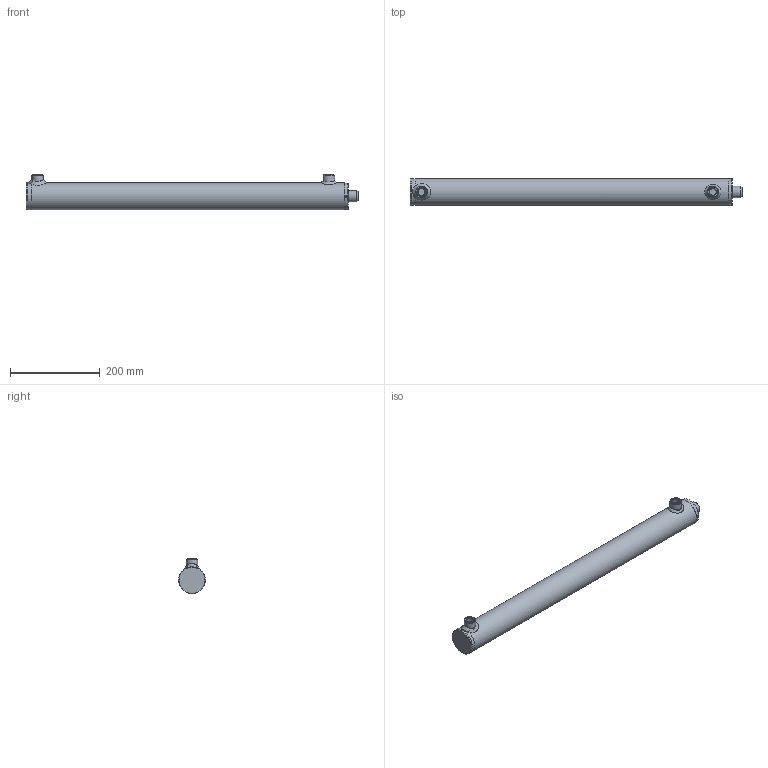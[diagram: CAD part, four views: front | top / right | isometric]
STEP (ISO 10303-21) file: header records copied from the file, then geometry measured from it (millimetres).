
FILE_DESCRIPTION( ( 'Unknown' ), '1' );
FILE_NAME( 'E:/LIBRERIA_3d/CILINDRI/HM0/HM02250600.stp', 'Unknown', ( 'Unknown' ), ( 'Unknown' ), 'PSStep 17.0.49', 'Unknown', ' ' );
FILE_SCHEMA( ( 'AUTOMOTIVE_DESIGN { 1 0 10303 214 1 1 1 1 }' ) );
Length unit declared in the file: millimetre
Products named in the file (18): CG06005025; CT00050020; STL2500600-oa4; Saldatura d'angolo 1-oa2; CBS0600000; FTM2500600-oa3; Assem1; Saldatura con preparazione 1-oa0; Saldatura d'angolo 1-oa1; CF00050060; CDA0002015; APG0600000; SBL2520600
Assembly tree (15 placements, depth 3):
  Saldatura d'angolo 1-oa2
  Saldatura d'angolo 1-oa2
  Assem1
    Saldatura con preparazione 1-oa0
    Saldatura con preparazione 1-oa0
    CF00050060
    CBS0600000
    CDA0002015
    APG0600000  x2
    SBL2520600
    CT00050020
      CT00050020
    CG06005025
      CG06005025
    STL2500600-oa4
      CBS0600000
      FTM2500600-oa3
  Saldatura d'angolo 1-oa1
  Saldatura d'angolo 1-oa1
Bounding box: 740 x 60 x 79 mm (x, y, z)
Volume: 1112230 mm3; surface area: 367072.7 mm2
Topology: 16 solids, 16 shells, 201 faces, 407 edges, 251 vertices
Faces by surface type: plane 58, cylinder 55, torus 38, cone 32, bspline 18
Full cylindrical faces by diameter (mm): 4 x2, 4.25 x1, 5 x2, 7 x2, 14.95 x2, 16 x2, 16.6 x2, 19.4 x1, 20 x5, 22 x2, 24.5 x1, 25 x4, 26 x2, 27 x1, 28 x1, 30 x1, 33.6 x1, 34 x1, 35 x1, 45 x1, 45.41 x2, 48.66 x2, 49.9 x1, 50 x1, 50.3 x1, 50.5 x1, 50.6 x1, 51 x1, 52 x3, 52.5 x1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
Entity records: 8694 total; most frequent: CARTESIAN_POINT 3984, DIRECTION 710, ORIENTED_EDGE 432, AXIS2_PLACEMENT_3D 343, EDGE_LOOP 342, FACE_OUTER_BOUND 276, EDGE_CURVE 216, VERTEX_POINT 195
